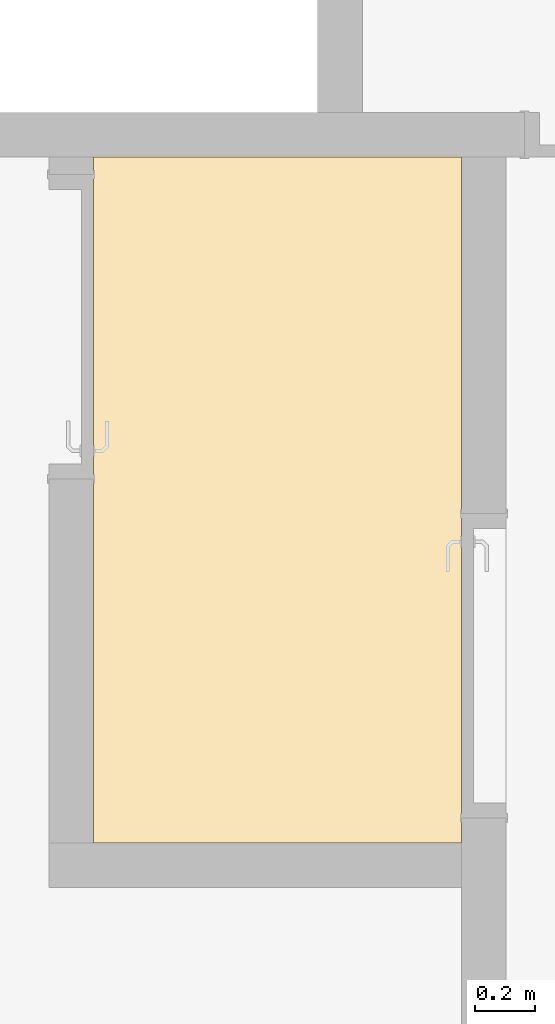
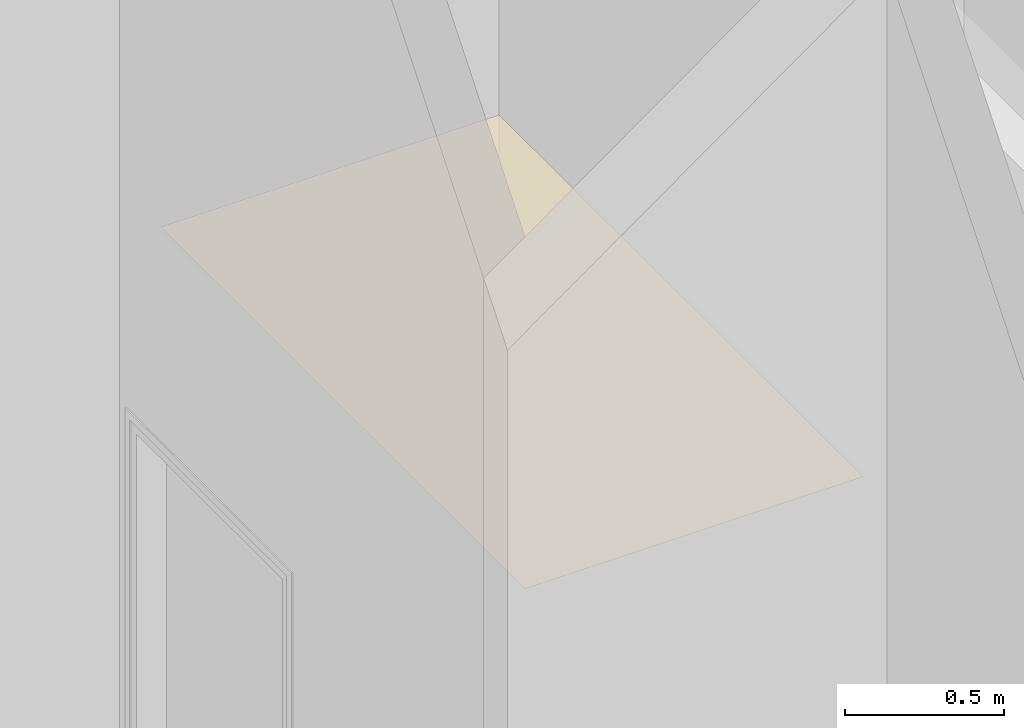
# One storey, part 36 of 39: 1 covering.
"""IFC4 building model written with IfcOpenShell, lengths in metres."""

import ifcopenshell
import ifcopenshell.guid

model = None  # the IFC model being written
_history = None  # IfcOwnerHistory: only IFC2X3 demands one
_inside = {}  # id of a spatial element -> (the spatial element, [elements in it])
_under = {}  # id of a project, library or spatial element -> (it, [spatial elements below it])
_declared = {}  # id of a project -> (the project, [libraries it declares])
_typed = {}  # id of a type object -> (the type object, [elements of that type])
_made_of = {}  # id of a material, layer set ... -> (it, [elements and type objects made of it])


def new_model(schema):
    """Start an empty IFC model of exactly this schema.

    Asked for "IFC4X3", IfcOpenShell would pick the latest addendum, in which some entities
    have other attributes; the version numbers below select the first issue.
    IFC2X3 requires an IfcOwnerHistory on every rooted entity: one is made here for all.
    """
    global model, _history
    if schema == "IFC4X3":
        model = ifcopenshell.file(schema_version=(4, 3, 0, 0))
    else:
        model = ifcopenshell.file(schema=schema)
    _inside.clear()
    _under.clear()
    _declared.clear()
    _typed.clear()
    _made_of.clear()
    _history = None
    if model.schema == "IFC2X3":
        org = make("IfcOrganization", Name="unknown")
        user = make(
            "IfcPersonAndOrganization",
            ThePerson=make("IfcPerson", FamilyName="unknown"),
            TheOrganization=org,
        )
        app = make(
            "IfcApplication",
            ApplicationDeveloper=org,
            Version="unknown",
            ApplicationFullName="unknown",
            ApplicationIdentifier="unknown",
        )
        _history = make(
            "IfcOwnerHistory",
            OwningUser=user,
            OwningApplication=app,
            ChangeAction="ADDED",
            CreationDate=0,
        )
    return model


def make(cls, **values):
    """One entity of the class cls with the attributes given. An attribute that is None is left unset."""
    return model.create_entity(
        cls, **{name: value for name, value in values.items() if value is not None}
    )


def entity(cls, *values):
    """Any entity or typed value of the class cls, its attributes in the order of the schema. None: left unset."""
    e = model.create_entity(cls)
    for i, value in enumerate(values):
        if value is not None:
            e[i] = value
    return e


def rooted(cls, **values):
    """An entity with a GlobalId (a new one), such as an element, a storey or a relation."""
    return make(cls, GlobalId=ifcopenshell.guid.new(), OwnerHistory=_history, **values)


def si_unit(unit_type, name, prefix=None):
    """IfcSIUnit, for example si_unit("LENGTHUNIT", "METRE", prefix="MILLI")."""
    return make("IfcSIUnit", UnitType=unit_type, Prefix=prefix, Name=name)


def converted_unit(unit_type, name, factor, base, dimensions=None, offset=None):
    """IfcConversionBasedUnit, such as the inch: factor (a typed value) times the base unit."""
    return make(
        "IfcConversionBasedUnit"
        if offset is None
        else "IfcConversionBasedUnitWithOffset",
        ConversionOffset=offset,
        Dimensions=None
        if dimensions is None
        else entity("IfcDimensionalExponents", *dimensions),
        UnitType=unit_type,
        Name=name,
        ConversionFactor=make(
            "IfcMeasureWithUnit", ValueComponent=factor, UnitComponent=base
        ),
    )


def derived_unit(unit_type, elements):
    """IfcDerivedUnit: a product of units, each with its exponent."""
    return make(
        "IfcDerivedUnit",
        Elements=[
            make("IfcDerivedUnitElement", Unit=unit, Exponent=power)
            for unit, power in elements
        ],
        UnitType=unit_type,
    )


def assignment(units):
    """IfcUnitAssignment: the units of a project."""
    return None if units is None else make("IfcUnitAssignment", Units=units)


def point(xyz):
    """IfcCartesianPoint."""
    return None if xyz is None else make("IfcCartesianPoint", Coordinates=xyz)


def direction(xyz):
    """IfcDirection."""
    return None if xyz is None else make("IfcDirection", DirectionRatios=xyz)


def frame(location, z_axis=None, x_axis=None):
    """IfcAxis2Placement3D, a coordinate frame: its origin and axes. An axis left out is left unset."""
    return make(
        "IfcAxis2Placement3D",
        Location=point(location),
        Axis=direction(z_axis),
        RefDirection=direction(x_axis),
    )


def origin():
    """The frame at (0, 0, 0) with its axes left unset."""
    return frame((0.0, 0.0, 0.0))


def place(relative_to, where):
    """IfcLocalPlacement: puts the frame where relative to a parent placement (None: the world)."""
    return make(
        "IfcLocalPlacement", PlacementRelTo=relative_to, RelativePlacement=where
    )


def context(
    kind, dimensions, precision=None, world=None, true_north=None, identifier=None
):
    """IfcGeometricRepresentationContext, for example the 3D "Model" context."""
    return make(
        "IfcGeometricRepresentationContext",
        ContextIdentifier=identifier,
        ContextType=kind,
        CoordinateSpaceDimension=dimensions,
        Precision=precision,
        WorldCoordinateSystem=world,
        TrueNorth=true_north,
    )


def subcontext(parent, identifier, kind, view, scale=None):
    """IfcGeometricRepresentationSubContext, for example "Body" below "Model"."""
    return make(
        "IfcGeometricRepresentationSubContext",
        ContextIdentifier=identifier,
        ContextType=kind,
        ParentContext=parent,
        TargetScale=scale,
        TargetView=view,
    )


def project(units=None, contexts=None):
    """IfcProject with its units and contexts."""
    return rooted(
        "IfcProject",
        Name="project",
        RepresentationContexts=contexts,
        UnitsInContext=assignment(units),
    )


def spatial(cls, under=None, at=None, **own):
    """A site, building, storey or space (cls), placed at a placement, below another one or the project."""
    s = rooted(cls, ObjectPlacement=at, **own)
    if under is not None:
        _under.setdefault(under.id(), (under, []))[1].append(s)
    return s


def point_list(points):
    """IfcCartesianPointList2D or 3D."""
    cls = (
        "IfcCartesianPointList2D" if len(points[0]) == 2 else "IfcCartesianPointList3D"
    )
    return make(cls, CoordList=points)


def polygons(points, faces, closed=None, point_numbers=None):
    """IfcPolygonalFaceSet: a face is its outer loop, then its inner loops; points numbered from 1."""
    made = []
    for loops in faces:
        if len(loops) == 1:
            made.append(make("IfcIndexedPolygonalFace", CoordIndex=loops[0]))
        else:
            made.append(
                make(
                    "IfcIndexedPolygonalFaceWithVoids",
                    CoordIndex=loops[0],
                    InnerCoordIndices=loops[1:],
                )
            )
    return make(
        "IfcPolygonalFaceSet",
        Coordinates=point_list(points),
        Closed=closed,
        Faces=made,
        PnIndex=point_numbers,
    )


def shape(context_of_items, identifier, shape_type, items):
    """IfcShapeRepresentation: the items that make up one representation, for example the "Body"."""
    return make(
        "IfcShapeRepresentation",
        ContextOfItems=context_of_items,
        RepresentationIdentifier=identifier,
        RepresentationType=shape_type,
        Items=items,
    )


def material(Name=None, Category=None):
    """IfcMaterial."""
    return make("IfcMaterial", Name=Name, Category=Category)


def layer(
    of_material, thickness, ventilated=None, Name=None, Category=None, Priority=None
):
    """IfcMaterialLayer: one layer of a wall or slab, of a material (None: an air gap)."""
    return make(
        "IfcMaterialLayer",
        Material=of_material,
        LayerThickness=thickness,
        IsVentilated=ventilated,
        Name=Name,
        Category=Category,
        Priority=Priority,
    )


def layer_set(layers, Name=None):
    """IfcMaterialLayerSet."""
    return make("IfcMaterialLayerSet", MaterialLayers=layers, LayerSetName=Name)


def made_of(thing, what):
    """Note that an element or type object is made of a material, layer set ...; save() writes the relation."""
    if what is not None:
        _made_of.setdefault(what.id(), (what, []))[1].append(thing)
    return thing


def type_object(cls, material=None, **own):
    """A type object (cls), such as IfcWallType, which elements share."""
    return made_of(rooted(cls, **own), material)


def element(
    cls,
    number,
    at=None,
    inside=None,
    cuts=None,
    type_object=None,
    material=None,
    context=None,
    identifier="Body",
    shape_type=None,
    held_by="IfcProductDefinitionShape",
    body=None,
    shapes=None,
    **own,
):
    """One element of the class cls, such as IfcWall. Its Tag is "e" and its number.

    at: its placement. inside: the storey or other place that contains it. cuts: it is an
    opening in that element (IfcRelVoidsElement). A single representation is given by context,
    identifier, shape_type and body (its items); several are given by shapes. held_by: the class
    of the entity that holds the representations. save() writes the other relations.
    """
    e = rooted(cls, Tag="e%d" % number, ObjectPlacement=at, **own)
    if body is not None:
        shapes = [shape(context, identifier, shape_type, body)]
    if shapes is not None:
        e.Representation = make(held_by, Representations=shapes)
    if inside is not None:
        _inside.setdefault(inside.id(), (inside, []))[1].append(e)
    if cuts is not None:
        rooted(
            "IfcRelVoidsElement", RelatingBuildingElement=cuts, RelatedOpeningElement=e
        )
    if type_object is not None:
        _typed.setdefault(type_object.id(), (type_object, []))[1].append(e)
    return made_of(e, material)


def aggregate(whole, parts):
    """IfcRelAggregates: a whole, such as a stair, and the parts it consists of."""
    return rooted("IfcRelAggregates", RelatingObject=whole, RelatedObjects=parts)


def save(model, path):
    """Write the relations noted so far, then the file.

    IfcRelAggregates (storeys below a building ...), IfcRelContainedInSpatialStructure (elements
    in a storey), IfcRelDefinesByType, IfcRelAssociatesMaterial and IfcRelDeclares: one each for
    every whole, place, type object, material and project.
    """
    for whole, parts in _under.values():
        aggregate(whole, parts)
    for where, things in _inside.values():
        rooted(
            "IfcRelContainedInSpatialStructure",
            RelatedElements=things,
            RelatingStructure=where,
        )
    for kind, things in _typed.values():
        rooted("IfcRelDefinesByType", RelatedObjects=things, RelatingType=kind)
    for what, things in _made_of.values():
        rooted("IfcRelAssociatesMaterial", RelatedObjects=things, RelatingMaterial=what)
    for by, libraries in _declared.values():
        rooted("IfcRelDeclares", RelatingContext=by, RelatedDefinitions=libraries)
    model.write(path)


model = new_model("IFC4")

# Units and contexts
model_context = context("Model", 3, precision=1e-05, world=origin(), true_north=direction((6.12303176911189e-17, 1.0)))
body_context = subcontext(model_context, "Body", "Model", "MODEL_VIEW")
ifc_project = project(units=[si_unit("LENGTHUNIT", "METRE"), si_unit("AREAUNIT", "SQUARE_METRE"), si_unit("VOLUMEUNIT", "CUBIC_METRE"), converted_unit("PLANEANGLEUNIT", "DEGREE", entity("IfcRatioMeasure", 0.0174532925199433), si_unit("PLANEANGLEUNIT", "RADIAN"), dimensions=[0, 0, 0, 0, 0, 0, 0]), si_unit("MASSUNIT", "GRAM", prefix="KILO"), derived_unit("MASSDENSITYUNIT", [(si_unit("MASSUNIT", "GRAM", prefix="KILO"), 1), (si_unit("LENGTHUNIT", "METRE"), -3)]), derived_unit("MOMENTOFINERTIAUNIT", [(si_unit("LENGTHUNIT", "METRE"), 4)]), si_unit("TIMEUNIT", "SECOND"), si_unit("FREQUENCYUNIT", "HERTZ"), si_unit("THERMODYNAMICTEMPERATUREUNIT", "DEGREE_CELSIUS"), derived_unit("THERMALTRANSMITTANCEUNIT", [(si_unit("MASSUNIT", "GRAM", prefix="KILO"), 1), (si_unit("THERMODYNAMICTEMPERATUREUNIT", "KELVIN"), -1), (si_unit("TIMEUNIT", "SECOND"), -3)]), derived_unit("VOLUMETRICFLOWRATEUNIT", [(si_unit("LENGTHUNIT", "METRE"), 3), (si_unit("TIMEUNIT", "SECOND"), -1)]), si_unit("ELECTRICCURRENTUNIT", "AMPERE"), si_unit("ELECTRICVOLTAGEUNIT", "VOLT"), si_unit("POWERUNIT", "WATT"), si_unit("FORCEUNIT", "NEWTON", prefix="KILO"), si_unit("ILLUMINANCEUNIT", "LUX"), si_unit("LUMINOUSFLUXUNIT", "LUMEN"), si_unit("LUMINOUSINTENSITYUNIT", "CANDELA"), derived_unit("USERDEFINED", [(si_unit("MASSUNIT", "GRAM", prefix="KILO"), -1), (si_unit("LENGTHUNIT", "METRE"), -2), (si_unit("TIMEUNIT", "SECOND"), 3), (si_unit("LUMINOUSFLUXUNIT", "LUMEN"), 1)]), derived_unit("LINEARVELOCITYUNIT", [(si_unit("LENGTHUNIT", "METRE"), 1), (si_unit("TIMEUNIT", "SECOND"), -1)]), si_unit("PRESSUREUNIT", "PASCAL"), derived_unit("USERDEFINED", [(si_unit("LENGTHUNIT", "METRE"), -2), (si_unit("MASSUNIT", "GRAM", prefix="KILO"), 1), (si_unit("TIMEUNIT", "SECOND"), -2)]), derived_unit("LINEARFORCEUNIT", [(si_unit("MASSUNIT", "GRAM", prefix="KILO"), 1), (si_unit("LENGTHUNIT", "METRE"), 1), (si_unit("TIMEUNIT", "SECOND"), -2), (si_unit("LENGTHUNIT", "METRE"), -1)]), derived_unit("PLANARFORCEUNIT", [(si_unit("MASSUNIT", "GRAM", prefix="KILO"), 1), (si_unit("LENGTHUNIT", "METRE"), 1), (si_unit("TIMEUNIT", "SECOND"), -2), (si_unit("LENGTHUNIT", "METRE"), -2)])], contexts=[model_context])

# Site, building, storey
site_placement = place(None, origin())
site = spatial("IfcSite", under=ifc_project, at=site_placement, Name="Default", CompositionType="ELEMENT")
building_placement = place(site_placement, origin())
building = spatial("IfcBuilding", under=site, at=building_placement, Name="HOTEL CONSULAIRE BOULOGNE SUR MER", CompositionType="ELEMENT")
storey_placement = place(building_placement, frame((0.0, 0.0, -5.02343668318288)))
storey = spatial("IfcBuildingStorey", under=building, at=storey_placement, Name="SS3", CompositionType="ELEMENT", Elevation=-5.02343668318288)

# Covering
ifc_material = material(Name="Faux-plafond - Trame 600 x 600", Category="Divers")
ifc_layer = layer(ifc_material, 0.0, Name="Faux-plafond - Trame 600 x 600", Category="Divers")
ifc_layer_set = layer_set([ifc_layer], Name="Plafond de base:Plafond 600 mm x 1200 mm")
covering_type = type_object("IfcCoveringType", Name="Plafond de base:Plafond 600 mm x 1200 mm", PredefinedType="CEILING")
covering_placement = place(storey_placement, frame((-8.38543817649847, -19.1202500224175, 2.70391091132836)))
element("IfcCovering", 1, at=covering_placement, inside=storey, type_object=covering_type, material=ifc_layer_set, Name="Plafond de base:Plafond 600 mm x 1200 mm", ObjectType="Plafond de base:Plafond 600 mm x 1200 mm", PredefinedType="CEILING", context=body_context, shape_type="Tessellation", body=[
    polygons([(5.41433564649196e-15, 2.29566577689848, 0.0), (1.08286712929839e-15, 4.33146851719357e-15, 0.0), (1.23144960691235, 0.0, 0.0), (1.23144960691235, 2.29566577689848, 0.0)], [[[1, 2, 3, 4]]], closed=True),
])

save(model, "model.ifc")
